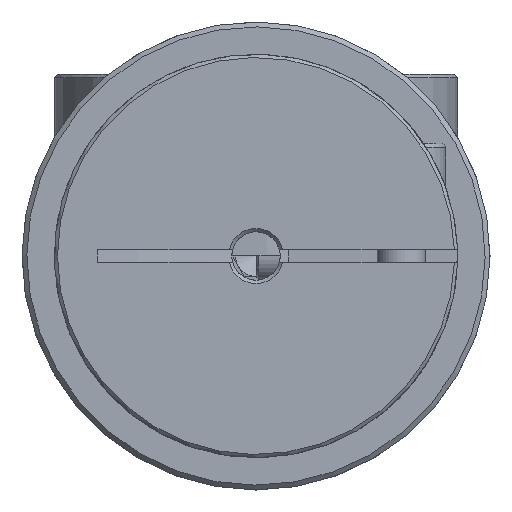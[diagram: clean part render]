
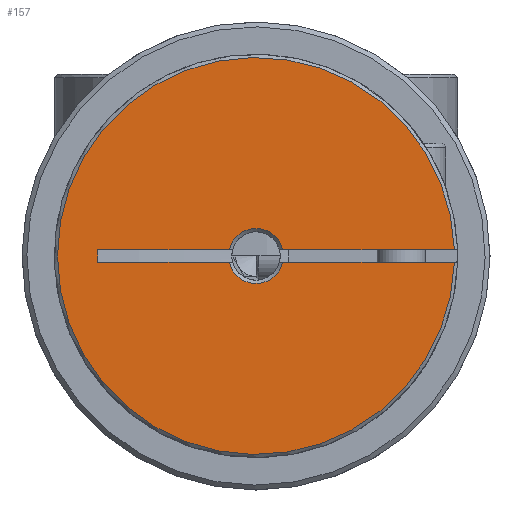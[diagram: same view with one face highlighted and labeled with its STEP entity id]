
A CAD part, left-side view. The second image highlights one B-rep face of the part: STEP entity #157.
In plain terms, the highlighted planar face has unit normal (-1, 0, 0) as drawn and (0, 0, 1) by its records, which use the part's own axes.
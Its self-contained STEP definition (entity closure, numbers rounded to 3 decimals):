
#157 = ADVANCED_FACE( 'NONE', ( #271 ), #272, .T. );
#271 = FACE_OUTER_BOUND( '', #393, .T. );
#272 = PLANE( '', #394 );
#393 = EDGE_LOOP( '', ( #782, #783, #784, #785, #786, #787, #788, #789 ) );
#394 = AXIS2_PLACEMENT_3D( '', #790, #791, #792 );
#782 = ORIENTED_EDGE( '', *, *, #1439, .F. );
#783 = ORIENTED_EDGE( '', *, *, #1442, .T. );
#784 = ORIENTED_EDGE( '', *, *, #1416, .F. );
#785 = ORIENTED_EDGE( '', *, *, #1478, .T. );
#786 = ORIENTED_EDGE( '', *, *, #1480, .T. );
#787 = ORIENTED_EDGE( '', *, *, #1469, .T. );
#788 = ORIENTED_EDGE( '', *, *, #1466, .T. );
#789 = ORIENTED_EDGE( '', *, *, #1463, .F. );
#790 = CARTESIAN_POINT( '', ( 0., 0., 11.25 ) );
#791 = DIRECTION( '', ( 0., 0., 1. ) );
#792 = DIRECTION( '', ( 1., 0., 0. ) );
#1416 = EDGE_CURVE( 'NONE', #2077, #2078, #2079, .T. );
#1439 = EDGE_CURVE( 'NONE', #2116, #2118, #2119, .F. );
#1442 = EDGE_CURVE( 'NONE', #2116, #2078, #2122, .F. );
#1463 = EDGE_CURVE( 'NONE', #2118, #2154, #2155, .F. );
#1466 = EDGE_CURVE( 'NONE', #2158, #2154, #2159, .T. );
#1469 = EDGE_CURVE( 'NONE', #2162, #2158, #2163, .F. );
#1478 = EDGE_CURVE( 'NONE', #2077, #2172, #2174, .T. );
#1480 = EDGE_CURVE( 'NONE', #2172, #2162, #2176, .T. );
#2077 = VERTEX_POINT( 'NONE', #3331 );
#2078 = VERTEX_POINT( 'NONE', #3332 );
#2079 = LINE( '', #3333, #3334 );
#2116 = VERTEX_POINT( 'NONE', #3385 );
#2118 = VERTEX_POINT( 'NONE', #3390 );
#2119 = LINE( '', #3391, #3392 );
#2122 = CIRCLE( '', #3395, 1.7 );
#2154 = VERTEX_POINT( 'NONE', #3539 );
#2155 = LINE( '', #3540, #3541 );
#2158 = VERTEX_POINT( 'NONE', #3544 );
#2159 = LINE( '', #3545, #3546 );
#2162 = VERTEX_POINT( 'NONE', #3552 );
#2163 = CIRCLE( '', #3553, 1.7 );
#2172 = VERTEX_POINT( 'NONE', #3566 );
#2174 = CIRCLE( '', #3571, 12.3 );
#2176 = LINE( '', #3573, #3574 );
#3331 = CARTESIAN_POINT( '', ( 12.293, 0.4, 11.25 ) );
#3332 = CARTESIAN_POINT( '', ( 1.652, 0.4, 11.25 ) );
#3333 = CARTESIAN_POINT( '', ( 0., 0.4, 11.25 ) );
#3334 = VECTOR( '', #3847, 1000. );
#3385 = CARTESIAN_POINT( '', ( -1.652, 0.4, 11.25 ) );
#3390 = CARTESIAN_POINT( '', ( -9.815, 0.4, 11.25 ) );
#3391 = CARTESIAN_POINT( '', ( 7., 0.4, 11.25 ) );
#3392 = VECTOR( '', #3877, 1000. );
#3395 = AXIS2_PLACEMENT_3D( '', #3881, #3882, #3883 );
#3539 = CARTESIAN_POINT( '', ( -9.815, -0.4, 11.25 ) );
#3540 = CARTESIAN_POINT( '', ( -9.815, -0.4, 11.25 ) );
#3541 = VECTOR( '', #3909, 1000. );
#3544 = CARTESIAN_POINT( '', ( -1.652, -0.4, 11.25 ) );
#3545 = CARTESIAN_POINT( '', ( 0., -0.4, 11.25 ) );
#3546 = VECTOR( '', #3913, 1000. );
#3552 = CARTESIAN_POINT( '', ( 1.652, -0.4, 11.25 ) );
#3553 = AXIS2_PLACEMENT_3D( '', #3914, #3915, #3916 );
#3566 = CARTESIAN_POINT( '', ( 12.293, -0.4, 11.25 ) );
#3571 = AXIS2_PLACEMENT_3D( '', #3924, #3925, #3926 );
#3573 = CARTESIAN_POINT( '', ( 0., -0.4, 11.25 ) );
#3574 = VECTOR( '', #3927, 1000. );
#3847 = DIRECTION( '', ( -1., 0., 0. ) );
#3877 = DIRECTION( '', ( 1., 0., 0. ) );
#3881 = CARTESIAN_POINT( '', ( 0., 0., 11.25 ) );
#3882 = DIRECTION( '', ( 0., 0., 1. ) );
#3883 = DIRECTION( '', ( 1., 0., 0. ) );
#3909 = DIRECTION( '', ( 0., 1., 0. ) );
#3913 = DIRECTION( '', ( -1., 0., 0. ) );
#3914 = CARTESIAN_POINT( '', ( 0., 0., 11.25 ) );
#3915 = DIRECTION( '', ( 0., 0., 1. ) );
#3916 = DIRECTION( '', ( 1., 0., 0. ) );
#3924 = CARTESIAN_POINT( '', ( 0., 0., 11.25 ) );
#3925 = DIRECTION( '', ( 0., 0., 1. ) );
#3926 = DIRECTION( '', ( 1., 0., 0. ) );
#3927 = DIRECTION( '', ( -1., 0., 0. ) );
